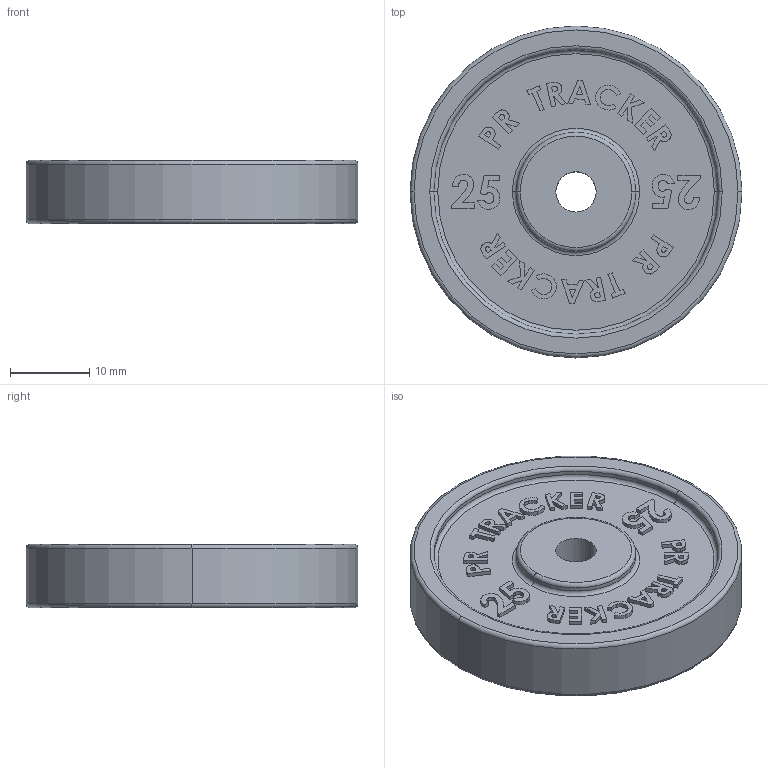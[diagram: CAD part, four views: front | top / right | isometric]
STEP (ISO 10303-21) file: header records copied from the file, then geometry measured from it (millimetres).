
FILE_DESCRIPTION (( 'STEP AP214' ), '1' );
FILE_NAME ('25.STEP', '2024-06-19T14:16:07', ( '' ), ( '' ), 'SwSTEP 2.0', 'SolidWorks 2022', '' );
FILE_SCHEMA (( 'AUTOMOTIVE_DESIGN' ));
Length unit declared in the file: millimetre
Products named in the file (1): 25
Bounding box: 42 x 42 x 8 mm (x, y, z)
Volume: 8479.4 mm3; surface area: 4512 mm2
Topology: 1 solids, 1 shells, 654 faces, 1732 edges, 1148 vertices
Faces by surface type: plane 462, bspline 160, torus 20, cylinder 12
Entity records: 29498 total; most frequent: CARTESIAN_POINT 14255, ORIENTED_EDGE 3464, DIRECTION 2466, EDGE_CURVE 1732, VECTOR 1348, LINE 1348, VERTEX_POINT 1148, EDGE_LOOP 724
